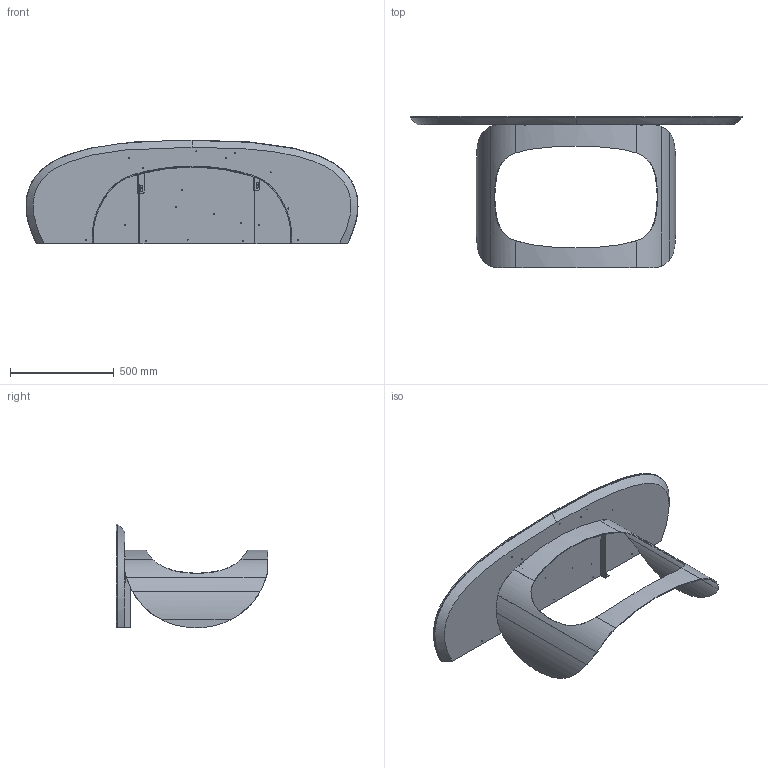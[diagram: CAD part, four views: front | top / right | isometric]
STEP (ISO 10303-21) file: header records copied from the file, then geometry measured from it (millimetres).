
FILE_DESCRIPTION (( 'STEP AP203' ), '1' );
FILE_NAME ('PO60C_Polifemo Console_160x50x73h_Ceramic Shaped.STEP', '2024-08-02T08:15:03', ( '' ), ( '' ), 'SwSTEP 2.0', 'SolidWorks 2022', '' );
FILE_SCHEMA (( 'CONFIG_CONTROL_DESIGN' ));
Length unit declared in the file: millimetre
Products named in the file (9): Kxx-00-Piano in ceramica_160x50; TRU000XXX-01-Sottopiano per ceramica_160x50<A macchina>; CONSOLLE POLIFEMO_STAFFA SX ANCORAGGIO; KXXXX-00-piani CERAMICA Sasso per console_160X50; CONSOLLE POLIFEMO_BASE 02; PO60C_Polifemo Console_160x50x73h_Ceramic Shaped; POLCSTA01-00-POLIFEMO CONSOLLE STAFFE METALLO VERN.NERO DI FONDO; CONSOLLE POLIFEMO_STAFFA DX ANCORAGGIO; POLC00000-00-POLIFEMO CONSOLLE CORPO CENTRALE METALLO GREZZO
Assembly tree (9 placements, depth 3):
  PO60C_Polifemo Console_160x50x73h_Ceramic Shaped
    POLC00000-00-POLIFEMO CONSOLLE CORPO CENTRALE METALLO GREZZO
      CONSOLLE POLIFEMO_BASE 02
      CONSOLLE POLIFEMO_STAFFA DX ANCORAGGIO
      CONSOLLE POLIFEMO_STAFFA SX ANCORAGGIO
    POLCSTA01-00-POLIFEMO CONSOLLE STAFFE METALLO VERN.NERO DI FONDO  x2
    KXXXX-00-piani CERAMICA Sasso per console_160X50
      Kxx-00-Piano in ceramica_160x50
      TRU000XXX-01-Sottopiano per ceramica_160x50<A macchina>
Bounding box: 1599.91 x 731 x 500.03 mm (x, y, z)
Volume: 30182734.4 mm3; surface area: 4085775.5 mm2
Topology: 7 solids, 7 shells, 289 faces, 736 edges, 457 vertices
Faces by surface type: cylinder 115, plane 84, bspline 50, cone 40
Entity records: 12275 total; most frequent: CARTESIAN_POINT 5495, ORIENTED_EDGE 1216, DIRECTION 1143, EDGE_CURVE 608, AXIS2_PLACEMENT_3D 413, VERTEX_POINT 377, LINE 317, VECTOR 317
